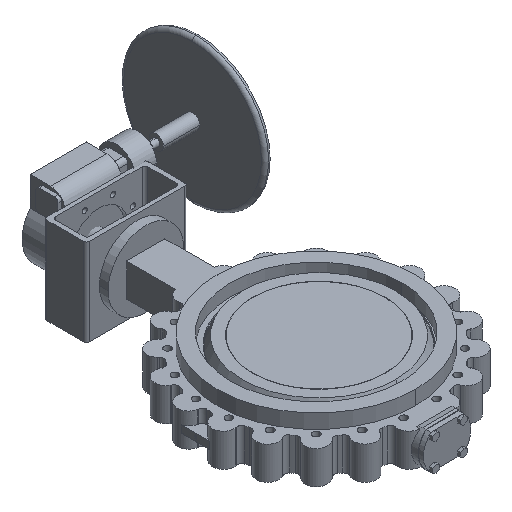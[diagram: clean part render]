
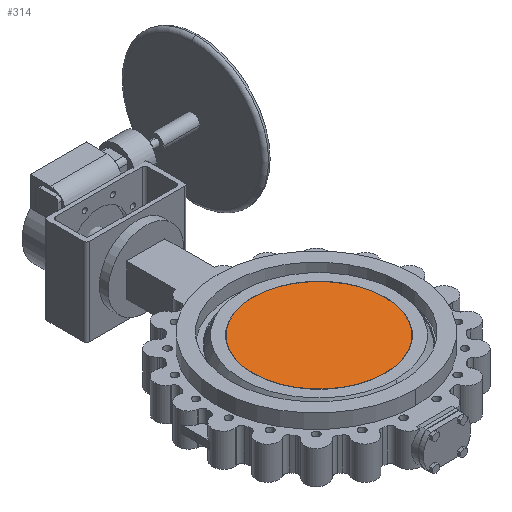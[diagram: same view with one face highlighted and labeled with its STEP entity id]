
A CAD part, isometric view. The second image highlights one B-rep face of the part: STEP entity #314.
In plain terms, the highlighted planar face has unit normal (0, 0, 1).
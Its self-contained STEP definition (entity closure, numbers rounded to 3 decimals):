
#314 = ADVANCED_FACE( '', ( #968 ), #969, .T. );
#968 = FACE_OUTER_BOUND( '', #1912, .T. );
#969 = PLANE( '', #1913 );
#1912 = EDGE_LOOP( '', ( #3924, #3925 ) );
#1913 = AXIS2_PLACEMENT_3D( '', #3926, #3927, #3928 );
#3924 = ORIENTED_EDGE( '', *, *, #6226, .T. );
#3925 = ORIENTED_EDGE( '', *, *, #6616, .T. );
#3926 = CARTESIAN_POINT( '', ( 9., 113.5, 91.6 ) );
#3927 = DIRECTION( '', ( 0., 0., 1. ) );
#3928 = DIRECTION( '', ( 0., 1., 0. ) );
#6226 = EDGE_CURVE( '', #7562, #7566, #7568, .T. );
#6616 = EDGE_CURVE( '', #7566, #7562, #8215, .T. );
#7562 = VERTEX_POINT( '', #9592 );
#7566 = VERTEX_POINT( '', #9597 );
#7568 = CIRCLE( '', #9600, 227. );
#8215 = CIRCLE( '', #11245, 227. );
#9592 = CARTESIAN_POINT( '', ( 9., 227., 91.6 ) );
#9597 = CARTESIAN_POINT( '', ( 9., -227., 91.6 ) );
#9600 = AXIS2_PLACEMENT_3D( '', #12962, #12963, #12964 );
#11245 = AXIS2_PLACEMENT_3D( '', #13698, #13699, #13700 );
#12962 = CARTESIAN_POINT( '', ( 9., 0., 91.6 ) );
#12963 = DIRECTION( '', ( 0., 0., 1. ) );
#12964 = DIRECTION( '', ( 0., 1., 0. ) );
#13698 = CARTESIAN_POINT( '', ( 9., 0., 91.6 ) );
#13699 = DIRECTION( '', ( 0., 0., 1. ) );
#13700 = DIRECTION( '', ( 0., 1., 0. ) );
